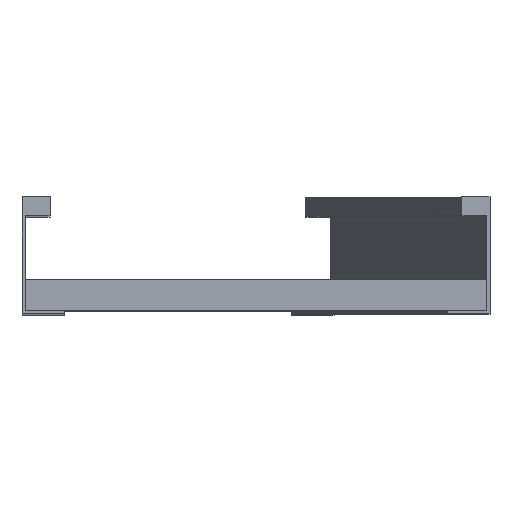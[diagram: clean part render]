
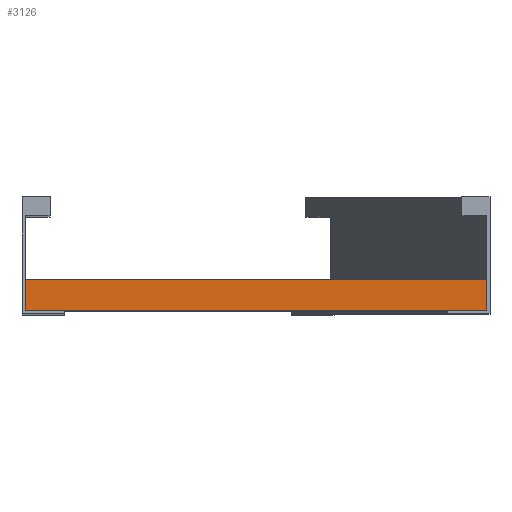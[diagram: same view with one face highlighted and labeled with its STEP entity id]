
A CAD part, top view. The second image highlights one B-rep face of the part: STEP entity #3126.
In plain terms, the highlighted planar face has unit normal (0, 0, 1).
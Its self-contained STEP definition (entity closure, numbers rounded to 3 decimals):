
#192 = EDGE_LOOP ( 'NONE', ( #464, #345, #2251, #541 ) ) ;
#252 = LINE ( 'NONE', #2977, #3543 ) ;
#345 = ORIENTED_EDGE ( 'NONE', *, *, #2609, .F. ) ;
#464 = ORIENTED_EDGE ( 'NONE', *, *, #1145, .T. ) ;
#469 = LINE ( 'NONE', #759, #2413 ) ;
#541 = ORIENTED_EDGE ( 'NONE', *, *, #1012, .T. ) ;
#759 = CARTESIAN_POINT ( 'NONE',  ( 148., 20., 20.25 ) ) ;
#936 = CARTESIAN_POINT ( 'NONE',  ( -148., 20., 20.25 ) ) ;
#947 = VECTOR ( 'NONE', #2581, 1000. ) ;
#1012 = EDGE_CURVE ( 'NONE', #1156, #2976, #469, .T. ) ;
#1042 = CARTESIAN_POINT ( 'NONE',  ( 148., 20., 20.25 ) ) ;
#1055 = DIRECTION ( 'NONE',  ( 0., -1., 0. ) ) ;
#1082 = DIRECTION ( 'NONE',  ( 0., 0., -1. ) ) ;
#1145 = EDGE_CURVE ( 'NONE', #2976, #1222, #1485, .T. ) ;
#1156 = VERTEX_POINT ( 'NONE', #2905 ) ;
#1222 = VERTEX_POINT ( 'NONE', #3267 ) ;
#1485 = LINE ( 'NONE', #3150, #947 ) ;
#1616 = VECTOR ( 'NONE', #2492, 1000. ) ;
#1661 = DIRECTION ( 'NONE',  ( 0., 1., 0. ) ) ;
#2129 = LINE ( 'NONE', #3522, #1616 ) ;
#2209 = EDGE_CURVE ( 'NONE', #1156, #3171, #252, .T. ) ;
#2251 = ORIENTED_EDGE ( 'NONE', *, *, #2209, .F. ) ;
#2413 = VECTOR ( 'NONE', #2997, 1000. ) ;
#2424 = FACE_OUTER_BOUND ( 'NONE', #192, .T. ) ;
#2461 = CARTESIAN_POINT ( 'NONE',  ( 148., 0., 20.25 ) ) ;
#2492 = DIRECTION ( 'NONE',  ( -1., 0., 0. ) ) ;
#2581 = DIRECTION ( 'NONE',  ( 0., -1., 0. ) ) ;
#2609 = EDGE_CURVE ( 'NONE', #3171, #1222, #2129, .T. ) ;
#2720 = AXIS2_PLACEMENT_3D ( 'NONE', #1042, #1082, #1661 ) ;
#2905 = CARTESIAN_POINT ( 'NONE',  ( 148., 20., 20.25 ) ) ;
#2976 = VERTEX_POINT ( 'NONE', #936 ) ;
#2977 = CARTESIAN_POINT ( 'NONE',  ( 148., 20., 20.25 ) ) ;
#2997 = DIRECTION ( 'NONE',  ( -1., 0., 0. ) ) ;
#3126 = ADVANCED_FACE ( 'NONE', ( #2424 ), #3246, .F. ) ;
#3150 = CARTESIAN_POINT ( 'NONE',  ( -148., 20., 20.25 ) ) ;
#3171 = VERTEX_POINT ( 'NONE', #2461 ) ;
#3246 = PLANE ( 'NONE',  #2720 ) ;
#3267 = CARTESIAN_POINT ( 'NONE',  ( -148., 0., 20.25 ) ) ;
#3522 = CARTESIAN_POINT ( 'NONE',  ( 148., 0., 20.25 ) ) ;
#3543 = VECTOR ( 'NONE', #1055, 1000. ) ;
